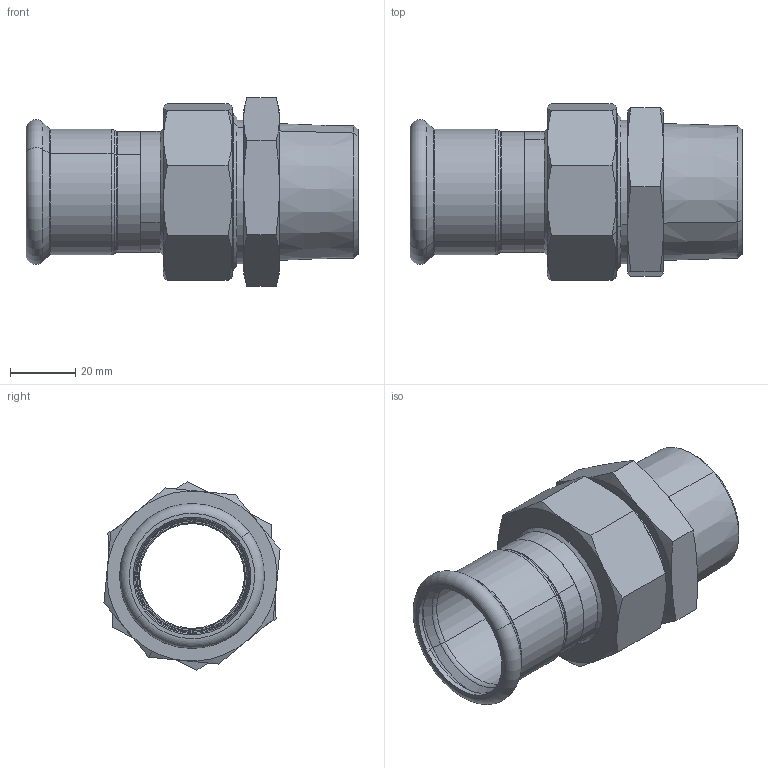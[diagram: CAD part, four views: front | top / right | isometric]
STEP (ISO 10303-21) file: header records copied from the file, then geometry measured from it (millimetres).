
FILE_DESCRIPTION (( 'STEP AP203' ), '1' );
FILE_NAME ('GDA5439.STEP', '2019-01-21T05:24:32', ( '' ), ( '' ), 'SwSTEP 2.0', 'SolidWorks 2015', '' );
FILE_SCHEMA (( 'CONFIG_CONTROL_DESIGN' ));
Length unit declared in the file: millimetre
Products named in the file (6): 1.5; 蛌遙諉芛1.5-1.2; 35｡ﾁ1?; ZL-Ⅰ-01×1?; T-ｉ-01-35; GDA5439
Assembly tree (5 placements, depth 2):
  GDA5439
    1.5
    35｡ﾁ1?
    T-ｉ-01-35
    ZL-Ⅰ-01×1?
    蛌遙諉芛1.5-1.2
Bounding box: 101.5 x 53.86 x 57.66 mm (x, y, z)
Volume: 68561 mm3; surface area: 38993.8 mm2
Topology: 5 solids, 5 shells, 132 faces, 274 edges, 158 vertices
Faces by surface type: cone 54, cylinder 32, plane 30, torus 16
Entity records: 4324 total; most frequent: CARTESIAN_POINT 884, DIRECTION 644, ORIENTED_EDGE 548, AXIS2_PLACEMENT_3D 286, EDGE_CURVE 274, VERTEX_POINT 158, EDGE_LOOP 148, CIRCLE 146
